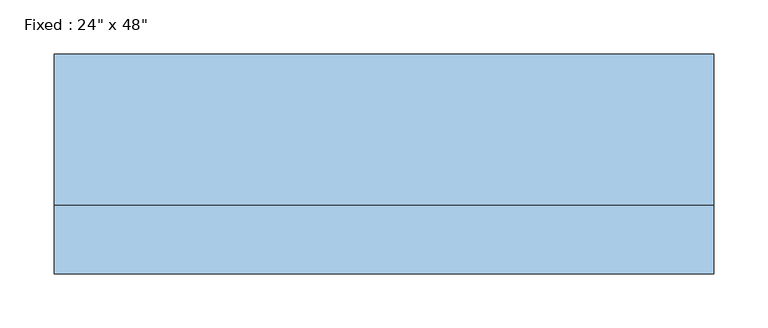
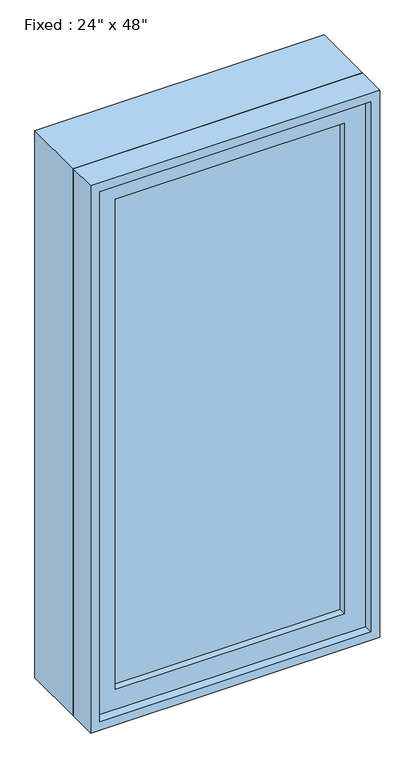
"""IFC4 building model written with IfcOpenShell, lengths in millimetres: window geometry."""

from ifc_helpers import new_model, si_unit, frame, origin, place, context, project, spatial, polyline, outline, extrude, source, transform, mapped, element, save


def window_9110666e(model_context):
    return source(origin(), model_context, "Body", "SweptSolid", [
        extrude(outline(polyline([(203.2, -53.975), (203.2, -66.675), (-279.4, -66.675), (-279.4, -53.975), (203.2, -53.975)])), frame((0.0, 0.0, 977.9), z_axis=(0.0, 0.0, 1.0), x_axis=(1.0, 0.0, 0.0)), (0.0, 0.0, 1.0), 1092.2),
        extrude(outline(polyline([(2114.55, -323.85), (933.45, -323.85), (933.45, 247.65), (2114.55, 247.65), (2114.55, -323.85)]), holes=[polyline([(2070.1, -279.4), (2070.1, 203.2), (977.9, 203.2), (977.9, -279.4), (2070.1, -279.4)])]), frame((0.0, -82.55, 0.0), z_axis=(0.0, 1.0, 0.0), x_axis=(0.0, 0.0, 1.0)), (0.0, 0.0, 1.0), 44.45),
        extrude(outline(polyline([(2133.6, -342.9), (914.4, -342.9), (914.4, 266.7), (2133.6, 266.7), (2133.6, -342.9)]), holes=[polyline([(2101.85, -311.15), (2101.85, 234.95), (946.15, 234.95), (946.15, -311.15), (2101.85, -311.15)])]), frame((0.0, -38.1, 0.0), z_axis=(0.0, 1.0, 0.0), x_axis=(0.0, 0.0, 1.0)), (0.0, 0.0, 1.0), 139.7),
        extrude(outline(polyline([(2133.6, 266.7), (2133.6, -342.9), (914.4, -342.9), (914.4, 266.7), (2133.6, 266.7)]), holes=[polyline([(2114.55, 247.65), (933.45, 247.65), (933.45, -323.85), (2114.55, -323.85), (2114.55, 247.65)])]), frame((0.0, -101.6, 0.0), z_axis=(0.0, 1.0, 0.0), x_axis=(0.0, 0.0, 1.0)), (0.0, 0.0, 1.0), 63.5),
    ])


if __name__ == "__main__":
    model = new_model("IFC4")
    model_context = context("Model", 3, world=origin())
    ifc_project = project(units=[si_unit("LENGTHUNIT", "METRE", prefix="MILLI")], contexts=[model_context])
    site = spatial("IfcSite", under=ifc_project)
    building = spatial("IfcBuilding", under=site)
    placement = place(None, origin())
    window_shape = window_9110666e(model_context)
    element("IfcWindow", 1, ObjectType="Fixed : 24\" x 48\"", at=placement, inside=building, context=model_context, shape_type="MappedRepresentation", body=[
        mapped(window_shape, transform((0.0, 0.0, 0.0), x_axis=(1.0, 0.0, 0.0), y_axis=(0.0, 1.0, 0.0), z_axis=(0.0, 0.0, 1.0))),
    ])
    save(model, "model.ifc")
